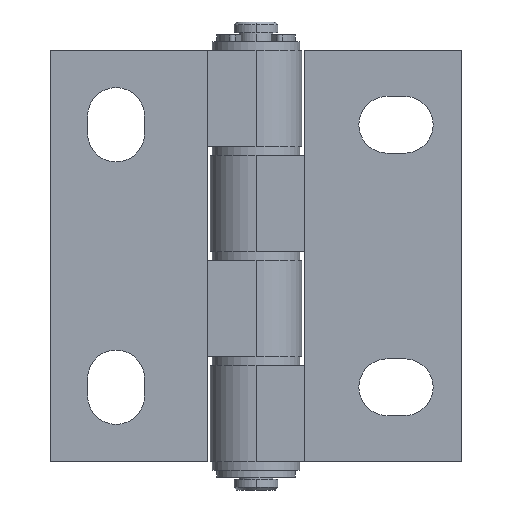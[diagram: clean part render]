
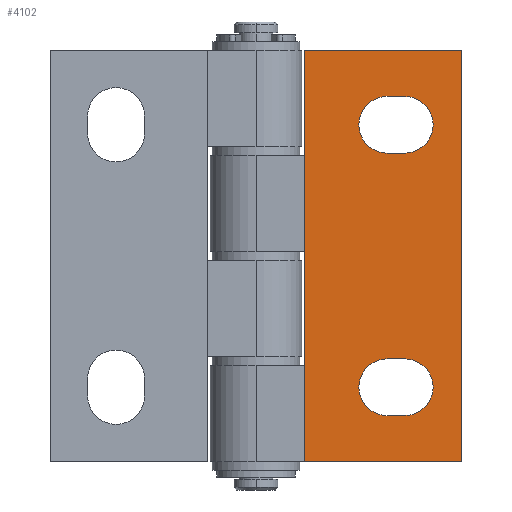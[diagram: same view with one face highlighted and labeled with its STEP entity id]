
A CAD part, front view. The second image highlights one B-rep face of the part: STEP entity #4102.
In plain terms, the highlighted planar face has unit normal (0, -1, 0).
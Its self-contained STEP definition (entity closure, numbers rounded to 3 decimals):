
#35 = AXIS2_PLACEMENT_3D ( 'NONE', #2155, #2532, #239 ) ;
#87 = VECTOR ( 'NONE', #1813, 1000. ) ;
#97 = CARTESIAN_POINT ( 'NONE',  ( 15., -5.75, 11.75 ) ) ;
#239 = DIRECTION ( 'NONE',  ( 0., 0., 1. ) ) ;
#392 = ORIENTED_EDGE ( 'NONE', *, *, #3559, .F. ) ;
#428 = VERTEX_POINT ( 'NONE', #618 ) ;
#435 = CIRCLE ( 'NONE', #3605, 3.25 ) ;
#448 = CIRCLE ( 'NONE', #4756, 3.25 ) ;
#452 = DIRECTION ( 'NONE',  ( 0., 1., 0. ) ) ;
#465 = DIRECTION ( 'NONE',  ( 1., 0., 0. ) ) ;
#479 = EDGE_CURVE ( 'NONE', #4111, #1785, #435, .T. ) ;
#512 = CARTESIAN_POINT ( 'NONE',  ( 17., -5.75, -15. ) ) ;
#518 = ORIENTED_EDGE ( 'NONE', *, *, #1119, .T. ) ;
#541 = DIRECTION ( 'NONE',  ( 0., 1., 0. ) ) ;
#543 = ORIENTED_EDGE ( 'NONE', *, *, #1420, .T. ) ;
#584 = CARTESIAN_POINT ( 'NONE',  ( 15., -5.75, -18.25 ) ) ;
#589 = EDGE_CURVE ( 'NONE', #3688, #428, #3150, .T. ) ;
#596 = AXIS2_PLACEMENT_3D ( 'NONE', #2770, #452, #3153 ) ;
#615 = CARTESIAN_POINT ( 'NONE',  ( 17., -5.75, -11.75 ) ) ;
#618 = CARTESIAN_POINT ( 'NONE',  ( 23.5, -5.75, -23.5 ) ) ;
#915 = DIRECTION ( 'NONE',  ( 0., 0., 1. ) ) ;
#1070 = LINE ( 'NONE', #97, #3765 ) ;
#1116 = CARTESIAN_POINT ( 'NONE',  ( 15., -5.75, -11.75 ) ) ;
#1119 = EDGE_CURVE ( 'NONE', #4019, #3479, #1880, .T. ) ;
#1123 = CARTESIAN_POINT ( 'NONE',  ( 17., -5.75, 11.75 ) ) ;
#1287 = LINE ( 'NONE', #1116, #3112 ) ;
#1347 = DIRECTION ( 'NONE',  ( 1., 0., 0. ) ) ;
#1420 = EDGE_CURVE ( 'NONE', #3479, #2364, #2596, .T. ) ;
#1430 = CARTESIAN_POINT ( 'NONE',  ( 5.5, -5.75, 23.5 ) ) ;
#1465 = EDGE_LOOP ( 'NONE', ( #4585, #3083, #1792, #3409 ) ) ;
#1491 = DIRECTION ( 'NONE',  ( 0., 1., 0. ) ) ;
#1577 = CARTESIAN_POINT ( 'NONE',  ( 5.5, -5.75, -23.5 ) ) ;
#1589 = EDGE_CURVE ( 'NONE', #2478, #428, #3134, .T. ) ;
#1656 = CARTESIAN_POINT ( 'NONE',  ( 5.5, -5.75, -23.5 ) ) ;
#1700 = EDGE_CURVE ( 'NONE', #3244, #2478, #2646, .T. ) ;
#1721 = LINE ( 'NONE', #4374, #4618 ) ;
#1723 = CARTESIAN_POINT ( 'NONE',  ( 15., -5.75, 18.25 ) ) ;
#1767 = DIRECTION ( 'NONE',  ( 0., 0., -1. ) ) ;
#1785 = VERTEX_POINT ( 'NONE', #2648 ) ;
#1792 = ORIENTED_EDGE ( 'NONE', *, *, #1700, .F. ) ;
#1813 = DIRECTION ( 'NONE',  ( 1., 0., 0. ) ) ;
#1823 = DIRECTION ( 'NONE',  ( 1., 0., 0. ) ) ;
#1837 = LINE ( 'NONE', #1430, #3876 ) ;
#1880 = LINE ( 'NONE', #3501, #4764 ) ;
#2042 = CARTESIAN_POINT ( 'NONE',  ( 15., -5.75, 11.75 ) ) ;
#2155 = CARTESIAN_POINT ( 'NONE',  ( 5.5, -5.75, 23.5 ) ) ;
#2239 = CARTESIAN_POINT ( 'NONE',  ( 5.5, -5.75, 23.5 ) ) ;
#2364 = VERTEX_POINT ( 'NONE', #1123 ) ;
#2478 = VERTEX_POINT ( 'NONE', #2749 ) ;
#2487 = EDGE_CURVE ( 'NONE', #3268, #4738, #4615, .T. ) ;
#2524 = EDGE_LOOP ( 'NONE', ( #3514, #2737, #4603, #4838 ) ) ;
#2525 = VECTOR ( 'NONE', #1823, 1000. ) ;
#2526 = AXIS2_PLACEMENT_3D ( 'NONE', #3507, #3525, #3907 ) ;
#2532 = DIRECTION ( 'NONE',  ( 0., 1., 0. ) ) ;
#2596 = CIRCLE ( 'NONE', #2526, 3.25 ) ;
#2646 = LINE ( 'NONE', #2239, #2525 ) ;
#2648 = CARTESIAN_POINT ( 'NONE',  ( 17., -5.75, -18.25 ) ) ;
#2737 = ORIENTED_EDGE ( 'NONE', *, *, #2487, .T. ) ;
#2749 = CARTESIAN_POINT ( 'NONE',  ( 23.5, -5.75, 23.5 ) ) ;
#2770 = CARTESIAN_POINT ( 'NONE',  ( 15., -5.75, -15. ) ) ;
#2971 = EDGE_CURVE ( 'NONE', #3244, #3688, #1837, .T. ) ;
#2996 = FACE_BOUND ( 'NONE', #2524, .T. ) ;
#3000 = DIRECTION ( 'NONE',  ( 1., 0., 0. ) ) ;
#3083 = ORIENTED_EDGE ( 'NONE', *, *, #1589, .F. ) ;
#3106 = FACE_OUTER_BOUND ( 'NONE', #1465, .T. ) ;
#3112 = VECTOR ( 'NONE', #4533, 1000. ) ;
#3134 = LINE ( 'NONE', #4421, #4122 ) ;
#3150 = LINE ( 'NONE', #1577, #87 ) ;
#3153 = DIRECTION ( 'NONE',  ( 0., 0., 1. ) ) ;
#3244 = VERTEX_POINT ( 'NONE', #4361 ) ;
#3260 = EDGE_CURVE ( 'NONE', #3268, #1785, #1721, .T. ) ;
#3268 = VERTEX_POINT ( 'NONE', #584 ) ;
#3352 = DIRECTION ( 'NONE',  ( 0., 0., -1. ) ) ;
#3409 = ORIENTED_EDGE ( 'NONE', *, *, #2971, .T. ) ;
#3444 = CARTESIAN_POINT ( 'NONE',  ( 15., -5.75, -11.75 ) ) ;
#3479 = VERTEX_POINT ( 'NONE', #3800 ) ;
#3482 = EDGE_CURVE ( 'NONE', #4738, #4111, #1287, .T. ) ;
#3501 = CARTESIAN_POINT ( 'NONE',  ( 15., -5.75, 18.25 ) ) ;
#3507 = CARTESIAN_POINT ( 'NONE',  ( 17., -5.75, 15. ) ) ;
#3514 = ORIENTED_EDGE ( 'NONE', *, *, #3260, .F. ) ;
#3525 = DIRECTION ( 'NONE',  ( 0., 1., 0. ) ) ;
#3559 = EDGE_CURVE ( 'NONE', #3653, #2364, #1070, .T. ) ;
#3605 = AXIS2_PLACEMENT_3D ( 'NONE', #512, #541, #915 ) ;
#3653 = VERTEX_POINT ( 'NONE', #2042 ) ;
#3688 = VERTEX_POINT ( 'NONE', #1656 ) ;
#3765 = VECTOR ( 'NONE', #465, 1000. ) ;
#3797 = CARTESIAN_POINT ( 'NONE',  ( 15., -5.75, 15. ) ) ;
#3800 = CARTESIAN_POINT ( 'NONE',  ( 17., -5.75, 18.25 ) ) ;
#3876 = VECTOR ( 'NONE', #3352, 1000. ) ;
#3907 = DIRECTION ( 'NONE',  ( 0., 0., 1. ) ) ;
#3987 = FACE_BOUND ( 'NONE', #4143, .T. ) ;
#4019 = VERTEX_POINT ( 'NONE', #1723 ) ;
#4036 = PLANE ( 'NONE',  #35 ) ;
#4102 = ADVANCED_FACE ( 'NONE', ( #2996, #3106, #3987 ), #4036, .F. ) ;
#4111 = VERTEX_POINT ( 'NONE', #615 ) ;
#4122 = VECTOR ( 'NONE', #1767, 1000. ) ;
#4143 = EDGE_LOOP ( 'NONE', ( #392, #4685, #518, #543 ) ) ;
#4148 = DIRECTION ( 'NONE',  ( 0., 0., 1. ) ) ;
#4361 = CARTESIAN_POINT ( 'NONE',  ( 5.5, -5.75, 23.5 ) ) ;
#4374 = CARTESIAN_POINT ( 'NONE',  ( 15., -5.75, -18.25 ) ) ;
#4421 = CARTESIAN_POINT ( 'NONE',  ( 23.5, -5.75, 23.5 ) ) ;
#4533 = DIRECTION ( 'NONE',  ( 1., 0., 0. ) ) ;
#4585 = ORIENTED_EDGE ( 'NONE', *, *, #589, .T. ) ;
#4603 = ORIENTED_EDGE ( 'NONE', *, *, #3482, .T. ) ;
#4615 = CIRCLE ( 'NONE', #596, 3.25 ) ;
#4618 = VECTOR ( 'NONE', #1347, 1000. ) ;
#4658 = EDGE_CURVE ( 'NONE', #3653, #4019, #448, .T. ) ;
#4685 = ORIENTED_EDGE ( 'NONE', *, *, #4658, .T. ) ;
#4738 = VERTEX_POINT ( 'NONE', #3444 ) ;
#4756 = AXIS2_PLACEMENT_3D ( 'NONE', #3797, #1491, #4148 ) ;
#4764 = VECTOR ( 'NONE', #3000, 1000. ) ;
#4838 = ORIENTED_EDGE ( 'NONE', *, *, #479, .T. ) ;
